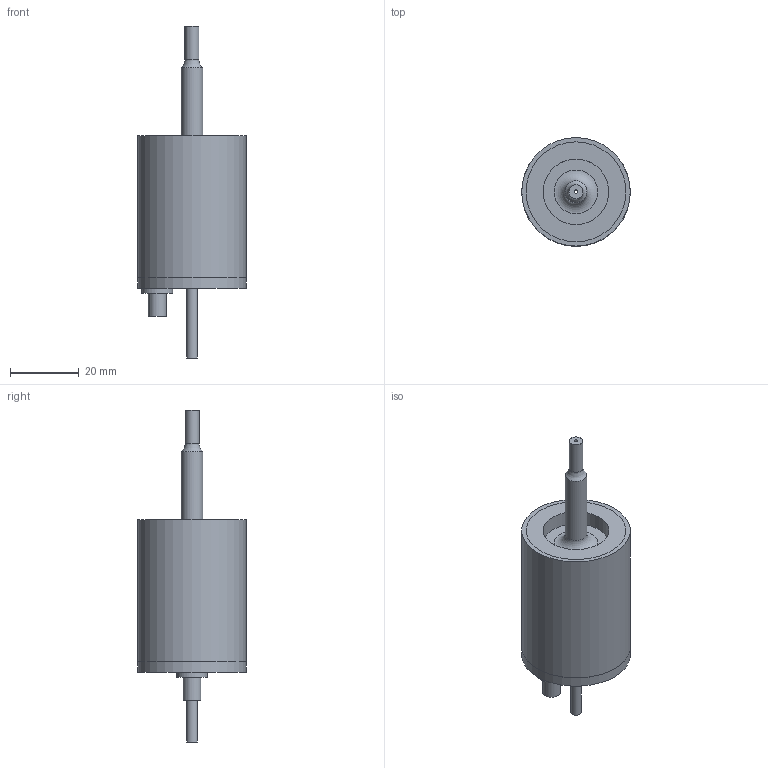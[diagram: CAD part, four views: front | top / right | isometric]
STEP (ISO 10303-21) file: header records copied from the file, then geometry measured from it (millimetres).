
FILE_DESCRIPTION((''),'2;1');
FILE_NAME('Y:\Desktop\AutoDesk\Atomizer Nozzles\40kHz\NS40.stp','2017-08-29T14:58:03',('Owner'),(''),'Autodesk Inventor 2013','Autodesk Inventor 2013','');
FILE_SCHEMA(('AUTOMOTIVE_DESIGN { 1 0 10303 214 1 1 1 1 }'));
Length unit declared in the file: inch
Products named in the file (8): NS40; lid; electrical connector; top tube; atomizer case; 1-64 screw; 40khz narrow; ring
Assembly tree (10 placements, depth 2):
  NS40
    lid
    electrical connector
    top tube
    atomizer case
    1-64 screw  x4
    40khz narrow
    ring
Bounding box: 31.55 x 31.55 x 96.42 mm (x, y, z)
Volume: 17235.2 mm3; surface area: 15090.8 mm2
Topology: 10 solids, 10 shells, 126 faces, 238 edges, 156 vertices
Faces by surface type: plane 70, cylinder 42, torus 10, cone 4
Full cylindrical faces by diameter (mm): 0.305 x1, 0.457 x1, 1.016 x1, 1.27 x1, 1.829 x1, 1.854 x12, 2.845 x4, 2.997 x4, 3.175 x2, 4.064 x1, 4.623 x1, 5.182 x1, 6.35 x1, 8.712 x1, 8.992 x1, 19.05 x2, 25.4 x1, 29.007 x2, 31.496 x1, 31.547 x1
Entity records: 2163 total; most frequent: DIRECTION 386, CARTESIAN_POINT 296, ORIENTED_EDGE 202, AXIS2_PLACEMENT_3D 181, EDGE_LOOP 158, EDGE_CURVE 101, VERTEX_POINT 91, CIRCLE 82
